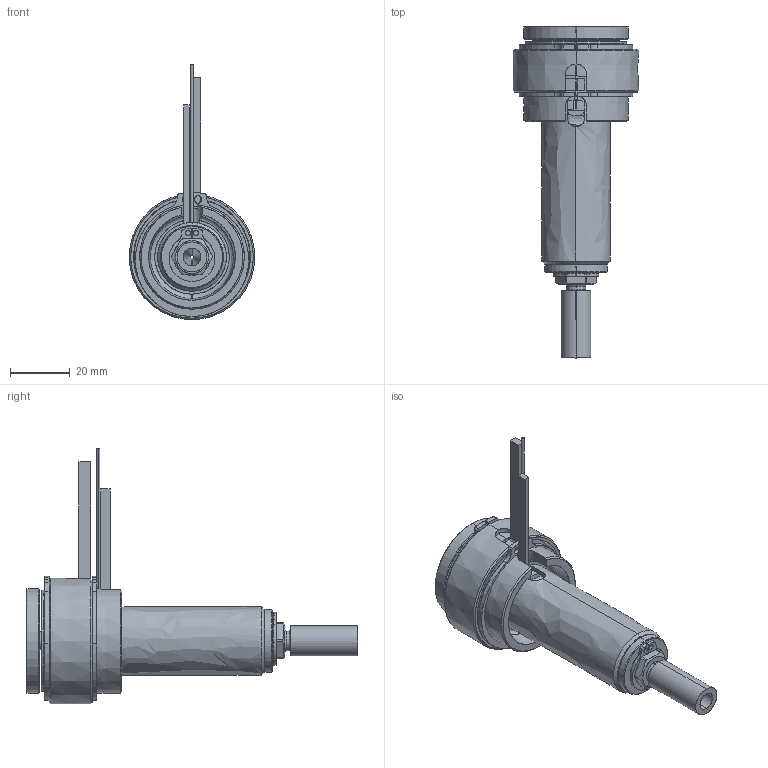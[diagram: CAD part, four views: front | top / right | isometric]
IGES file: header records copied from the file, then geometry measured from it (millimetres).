
Start section: SolidWorks IGES file using analytic representation for surfaces
Global section: file name: C:\Users\luca.EMPAD\Desktop\TEM\UGBE3501-S-A-P-5 [Ød-1.0 P-20 ØC-6.0].IGS; native system: SolidWorks 2012; preprocessor: SolidWorks 2012; author: luca; date: 120330.135511; units: millimetre
Bounding box: 42 x 111 x 85.4 mm (x, y, z)
Surface area: 28491.4 mm2 (no closed solid volume)
Topology: 0 solids, 0 shells, 196 faces, 3614 edges, 3614 vertices
Faces by surface type: revolution 127, bspline 69
